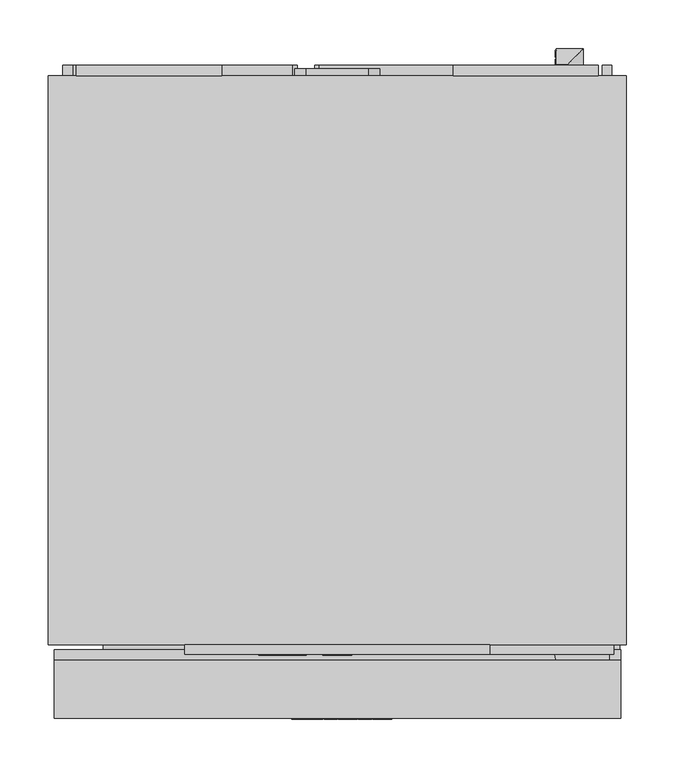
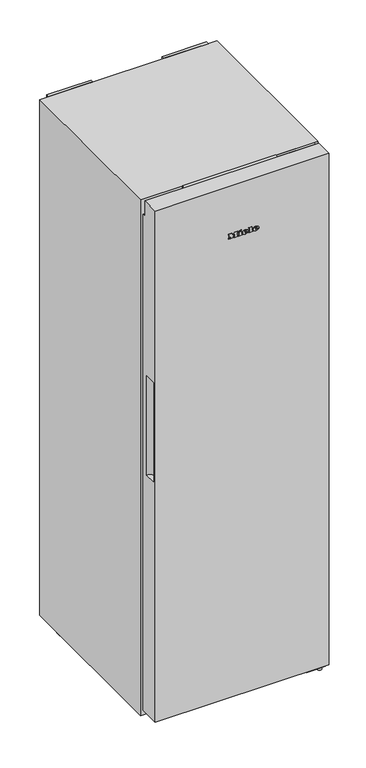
"""IFC4 building model written with IfcOpenShell, lengths in millimetres: proxy geometry, 12431030_EU1_KS4383DD_WS : 36438344_EU1_12431030_KS4383DD_WS."""

from ifc_helpers import new_model, si_unit, point, frame, frame_2d, origin, origin_with_axes, place, context, project, spatial, polyline, circle_curve, ellipse_curve, trimmed, segment, composite_curve, outline, extrude, faceted_brep, source, transform, mapped, element, save
from ifc_brep_helpers import plane_surface, cylinder_surface, revolved_surface, extruded_surface, advanced_brep


def specialty_equipment_c9f19f57(model_context):
    return source(origin(), model_context, "Body", "SolidModel", [
        extrude(outline(polyline([(15.0, -609.5), (-15.0, -609.5), (-15.0, -608.5), (15.0, -608.5), (15.0, -609.5)])), frame((0.0, 0.0, 1810.5), z_axis=(0.0, 0.0, 1.0), x_axis=(1.0, 0.0, 0.0)), (0.0, 0.0, 1.0), 31.0),
        extrude(outline(polyline([(105.0, -608.5), (-105.0, -608.5), (-105.0, -606.5), (105.0, -606.5), (105.0, -608.5)])), frame((0.0, 0.0, 1806.5), z_axis=(0.0, 0.0, 1.0), x_axis=(1.0, 0.0, 0.0)), (0.0, 0.0, 1.0), 39.0),
        faceted_brep([(157.5, -598.5, 1802.0), (157.5, -608.5, 1802.0), (-157.5, -608.5, 1802.0), (-157.5, -598.5, 1802.0), (157.5, -598.5, 1850.0), (-157.5, -598.5, 1850.0), (-157.5, -608.5, 1850.0), (157.5, -608.5, 1850.0), (-105.0, -608.5, 1845.5), (105.0, -608.5, 1845.5), (105.0, -608.5, 1806.5), (-105.0, -608.5, 1806.5), (105.0, -606.5, 1845.5), (-105.0, -606.5, 1845.5), (-105.0, -606.5, 1806.5), (105.0, -606.5, 1806.5)], [[[0, 1, 2, 3]], [[4, 5, 6, 7]], [[0, 3, 5, 4]], [[3, 2, 6, 5]], [[2, 1, 7, 6], [8, 9, 10, 11]], [[1, 0, 4, 7]], [[12, 13, 14, 15]], [[13, 12, 9, 8]], [[14, 13, 8, 11]], [[15, 14, 11, 10]], [[12, 15, 10, 9]]]),
        advanced_brep(
        [(44.846, -675.5, 1672.029), (44.846, -675.5, 1673.746), (56.219, -675.5, 1673.746), (36.431, -675.5, 1673.746), (41.106, -675.5, 1668.0), (55.93, -675.5, 1672.029), (50.796, -675.5, 1672.029), (46.75, -675.5, 1670.125), (44.846, -675.5, 1675.922), (44.846, -675.5, 1677.775), (47.753, -675.5, 1677.775), (47.753, -675.5, 1675.922), (44.846, -674.5, 1672.029), (46.75, -674.5, 1670.125), (50.796, -674.5, 1672.029), (55.93, -674.5, 1672.029), (41.106, -674.5, 1668.0), (36.431, -674.5, 1673.746), (56.219, -674.5, 1673.746), (44.846, -674.5, 1673.746), (44.846, -674.5, 1675.922), (47.753, -674.5, 1675.922), (47.753, -674.5, 1677.775), (44.846, -674.5, 1677.775)],
        [
            (0, 1),
            (1, 2),
            (2, 3, ellipse_curve(frame((46.325, -675.5, 1673.746), z_axis=(0.0, -1.0, 0.0), x_axis=(-1.0, 0.0, 0.0)), 9.894, 8.177)),
            (3, 4, circle_curve(frame((43.0100927, -675.5, 1674.324), z_axis=(0.0, -1.0, 0.0), x_axis=(0.0, 0.0, -1.0)), 6.6044337)),
            (4, 5, circle_curve(frame((46.1269364, -675.5, 1678.812), z_axis=(0.0, -1.0, 0.0), x_axis=(0.0, 0.0, -1.0)), 11.9209541)),
            (5, 6),
            (6, 7, circle_curve(frame((47.581, -675.5, 1673.61), z_axis=(0.0, 1.0, 0.0), x_axis=(0.0, 0.0, -1.0)), 3.5827065)),
            (7, 0, circle_curve(frame((46.75, -675.5, 1672.029), z_axis=(0.0, 1.0, 0.0), x_axis=(0.0, 0.0, -1.0)), 1.904)),
            (8, 9),
            (9, 10, circle_curve(frame((46.2995, -675.5, 1677.775), z_axis=(0.0, 1.0, 0.0), x_axis=(0.0, 0.0, -1.0)), 1.4535)),
            (10, 11),
            (11, 8),
            (12, 13, circle_curve(frame((46.75, -674.5, 1672.029), z_axis=(0.0, -1.0, 0.0), x_axis=(0.0, 0.0, -1.0)), 1.904)),
            (13, 14, circle_curve(frame((47.581, -674.5, 1673.61), z_axis=(0.0, -1.0, 0.0), x_axis=(0.0, 0.0, -1.0)), 3.5827065)),
            (14, 15),
            (15, 16, circle_curve(frame((46.1269364, -674.5, 1678.812), z_axis=(0.0, 1.0, 0.0), x_axis=(0.0, 0.0, -1.0)), 11.9209541)),
            (16, 17, circle_curve(frame((43.0100927, -674.5, 1674.324), z_axis=(0.0, 1.0, 0.0), x_axis=(0.0, 0.0, -1.0)), 6.6044337)),
            (17, 18, ellipse_curve(frame((46.325, -674.5, 1673.746), z_axis=(0.0, 1.0, 0.0), x_axis=(-1.0, 0.0, 0.0)), 9.894, 8.177)),
            (18, 19),
            (19, 12),
            (20, 21),
            (21, 22),
            (22, 23, circle_curve(frame((46.2995, -674.5, 1677.775), z_axis=(0.0, -1.0, 0.0), x_axis=(0.0, 0.0, -1.0)), 1.4535)),
            (23, 20),
            (0, 12),
            (19, 1),
            (18, 2),
            (5, 15),
            (14, 6),
            (17, 3),
            (13, 7),
            (16, 4),
            (8, 20),
            (23, 9),
            (22, 10),
            (21, 11),
        ],
        [
            plane_surface(frame((44.846, -675.5, 1673.746), z_axis=(0.0, -1.0, 0.0), x_axis=(0.0, 0.0, 1.0))),
            plane_surface(frame((44.846, -674.5, 1673.746), z_axis=(0.0, 1.0, 0.0), x_axis=(0.0, 0.0, -1.0))),
            plane_surface(frame((44.846, -675.5, 1672.029), z_axis=(1.0, 0.0, 0.0), x_axis=(0.0, 1.0, 0.0))),
            plane_surface(frame((44.846, -675.5, 1673.746), z_axis=(0.0, 0.0, -1.0), x_axis=(0.0, 1.0, 0.0))),
            plane_surface(frame((55.93, -675.5, 1672.029), z_axis=(0.0, 0.0, 1.0), x_axis=(0.0, 1.0, 0.0))),
            extruded_surface(trimmed(ellipse_curve(frame((46.325, -673.5, 1673.746), z_axis=(0.0, -1.0, 0.0), x_axis=(-1.0, 0.0, 0.0)), 9.894, 8.177), [point((56.219, -673.5, 1673.746))], [point((36.431, -673.5, 1673.746))], True, "CARTESIAN"), (0.0, -1.0, 0.0), 1.0),
            revolved_surface(polyline([(47.581, -674.5, 1670.0272934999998), (47.581, -675.5, 1670.0272934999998)]), (47.581, -674.5, 1673.61), (0.0, 1.0, 0.0)),
            revolved_surface(polyline([(46.75, -674.5, 1670.125), (46.75, -675.5, 1670.125)]), (46.75, -674.5, 1672.029), (0.0, 1.0, 0.0)),
            cylinder_surface(frame((43.0100927, -674.5, 1674.324), z_axis=(0.0, -1.0, 0.0), x_axis=(0.0, 0.0, -1.0)), 6.6044337),
            cylinder_surface(frame((46.1269364, -674.5, 1678.812), z_axis=(0.0, -1.0, 0.0), x_axis=(0.0, 0.0, -1.0)), 11.9209541),
            plane_surface(frame((44.846, -675.5, 1675.922), z_axis=(1.0, 0.0, 0.0), x_axis=(0.0, 1.0, 0.0))),
            revolved_surface(polyline([(46.2995, -674.5, 1676.3215), (46.2995, -675.5, 1676.3215)]), (46.2995, -674.5, 1677.775), (0.0, 1.0, 0.0)),
            plane_surface(frame((47.753, -675.5, 1677.775), z_axis=(-1.0, 0.0, 0.0), x_axis=(0.0, 1.0, 0.0))),
            plane_surface(frame((47.753, -675.5, 1675.922), z_axis=(0.0, 0.0, 1.0), x_axis=(0.0, 1.0, 0.0))),
        ],
        [
            (0, [[1, 2, 3, 4, 5, 6, 7, 8], [9, 10, 11, 12]]),
            (1, [[13, 14, 15, 16, 17, 18, 19, 20], [21, 22, 23, 24]]),
            (2, [[-1, 25, -20, 26]]),
            (3, [[-2, -26, -19, 27]]),
            (4, [[-6, 28, -15, 29]]),
            (5, [[-3, -27, -18, 30]]),
            (6, [[-7, -29, -14, 31]]),
            (7, [[-8, -31, -13, -25]]),
            (8, [[-4, -30, -17, 32]]),
            (9, [[-5, -32, -16, -28]]),
            (10, [[-9, 33, -24, 34]]),
            (11, [[-10, -34, -23, 35]]),
            (12, [[-11, -35, -22, 36]]),
            (13, [[-12, -36, -21, -33]]),
        ],
    ),
        advanced_brep(
        [(9.367, -675.5, 1672.029), (9.367, -675.5, 1673.746), (20.74, -675.5, 1673.746), (0.952, -675.5, 1673.746), (5.627, -675.5, 1668.0), (20.451, -675.5, 1672.029), (15.317, -675.5, 1672.029), (11.271, -675.5, 1670.125), (9.367, -675.5, 1675.922), (9.367, -675.5, 1677.775), (12.274, -675.5, 1677.775), (12.274, -675.5, 1675.922), (9.367, -674.5, 1672.029), (11.271, -674.5, 1670.125), (15.317, -674.5, 1672.029), (20.451, -674.5, 1672.029), (5.627, -674.5, 1668.0), (0.952, -674.5, 1673.746), (20.74, -674.5, 1673.746), (9.367, -674.5, 1673.746), (9.367, -674.5, 1675.922), (12.274, -674.5, 1675.922), (12.274, -674.5, 1677.775), (9.367, -674.5, 1677.775)],
        [
            (0, 1),
            (1, 2),
            (2, 3, ellipse_curve(frame((10.846, -675.5, 1673.746), z_axis=(0.0, -1.0, 0.0), x_axis=(-1.0, 0.0, 0.0)), 9.894, 8.177)),
            (3, 4, circle_curve(frame((7.5310927, -675.5, 1674.324), z_axis=(0.0, -1.0, 0.0), x_axis=(0.0, 0.0, -1.0)), 6.6044337)),
            (4, 5, circle_curve(frame((10.6479364, -675.5, 1678.812), z_axis=(0.0, -1.0, 0.0), x_axis=(0.0, 0.0, -1.0)), 11.9209541)),
            (5, 6),
            (6, 7, circle_curve(frame((12.102, -675.5, 1673.61), z_axis=(0.0, 1.0, 0.0), x_axis=(0.0, 0.0, -1.0)), 3.5827065)),
            (7, 0, circle_curve(frame((11.271, -675.5, 1672.029), z_axis=(0.0, 1.0, 0.0), x_axis=(0.0, 0.0, -1.0)), 1.904)),
            (8, 9),
            (9, 10, circle_curve(frame((10.8205, -675.5, 1677.775), z_axis=(0.0, 1.0, 0.0), x_axis=(0.0, 0.0, -1.0)), 1.4535)),
            (10, 11),
            (11, 8),
            (12, 13, circle_curve(frame((11.271, -674.5, 1672.029), z_axis=(0.0, -1.0, 0.0), x_axis=(0.0, 0.0, -1.0)), 1.904)),
            (13, 14, circle_curve(frame((12.102, -674.5, 1673.61), z_axis=(0.0, -1.0, 0.0), x_axis=(0.0, 0.0, -1.0)), 3.5827065)),
            (14, 15),
            (15, 16, circle_curve(frame((10.6479364, -674.5, 1678.812), z_axis=(0.0, 1.0, 0.0), x_axis=(0.0, 0.0, -1.0)), 11.9209541)),
            (16, 17, circle_curve(frame((7.5310927, -674.5, 1674.324), z_axis=(0.0, 1.0, 0.0), x_axis=(0.0, 0.0, -1.0)), 6.6044337)),
            (17, 18, ellipse_curve(frame((10.846, -674.5, 1673.746), z_axis=(0.0, 1.0, 0.0), x_axis=(-1.0, 0.0, 0.0)), 9.894, 8.177)),
            (18, 19),
            (19, 12),
            (20, 21),
            (21, 22),
            (22, 23, circle_curve(frame((10.8205, -674.5, 1677.775), z_axis=(0.0, -1.0, 0.0), x_axis=(0.0, 0.0, -1.0)), 1.4535)),
            (23, 20),
            (0, 12),
            (19, 1),
            (18, 2),
            (5, 15),
            (14, 6),
            (17, 3),
            (13, 7),
            (16, 4),
            (8, 20),
            (23, 9),
            (22, 10),
            (21, 11),
        ],
        [
            plane_surface(frame((9.367, -675.5, 1673.746), z_axis=(0.0, -1.0, 0.0), x_axis=(0.0, 0.0, 1.0))),
            plane_surface(frame((9.367, -674.5, 1673.746), z_axis=(0.0, 1.0, 0.0), x_axis=(0.0, 0.0, -1.0))),
            plane_surface(frame((9.367, -675.5, 1672.029), z_axis=(1.0, 0.0, 0.0), x_axis=(0.0, 1.0, 0.0))),
            plane_surface(frame((9.367, -675.5, 1673.746), z_axis=(0.0, 0.0, -1.0), x_axis=(0.0, 1.0, 0.0))),
            plane_surface(frame((20.451, -675.5, 1672.029), z_axis=(0.0, 0.0, 1.0), x_axis=(0.0, 1.0, 0.0))),
            extruded_surface(trimmed(ellipse_curve(frame((10.846, -673.5, 1673.746), z_axis=(0.0, -1.0, 0.0), x_axis=(-1.0, 0.0, 0.0)), 9.894, 8.177), [point((20.74, -673.5, 1673.746))], [point((0.952, -673.5, 1673.746))], True, "CARTESIAN"), (0.0, -1.0, 0.0), 1.0),
            revolved_surface(polyline([(12.102, -674.5, 1670.0272934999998), (12.102, -675.5, 1670.0272934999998)]), (12.102, -674.5, 1673.61), (0.0, 1.0, 0.0)),
            revolved_surface(polyline([(11.271, -674.5, 1670.125), (11.271, -675.5, 1670.125)]), (11.271, -674.5, 1672.029), (0.0, 1.0, 0.0)),
            cylinder_surface(frame((7.5310927, -674.5, 1674.324), z_axis=(0.0, -1.0, 0.0), x_axis=(0.0, 0.0, -1.0)), 6.6044337),
            cylinder_surface(frame((10.6479364, -674.5, 1678.812), z_axis=(0.0, -1.0, 0.0), x_axis=(0.0, 0.0, -1.0)), 11.9209541),
            plane_surface(frame((9.367, -675.5, 1675.922), z_axis=(1.0, 0.0, 0.0), x_axis=(0.0, 1.0, 0.0))),
            revolved_surface(polyline([(10.8205, -674.5, 1676.3215), (10.8205, -675.5, 1676.3215)]), (10.8205, -674.5, 1677.775), (0.0, 1.0, 0.0)),
            plane_surface(frame((12.274, -675.5, 1677.775), z_axis=(-1.0, 0.0, 0.0), x_axis=(0.0, 1.0, 0.0))),
            plane_surface(frame((12.274, -675.5, 1675.922), z_axis=(0.0, 0.0, 1.0), x_axis=(0.0, 1.0, 0.0))),
        ],
        [
            (0, [[1, 2, 3, 4, 5, 6, 7, 8], [9, 10, 11, 12]]),
            (1, [[13, 14, 15, 16, 17, 18, 19, 20], [21, 22, 23, 24]]),
            (2, [[-1, 25, -20, 26]]),
            (3, [[-2, -26, -19, 27]]),
            (4, [[-6, 28, -15, 29]]),
            (5, [[-3, -27, -18, 30]]),
            (6, [[-7, -29, -14, 31]]),
            (7, [[-8, -31, -13, -25]]),
            (8, [[-4, -30, -17, 32]]),
            (9, [[-5, -32, -16, -28]]),
            (10, [[-9, 33, -24, 34]]),
            (11, [[-10, -34, -23, 35]]),
            (12, [[-11, -35, -22, 36]]),
            (13, [[-12, -36, -21, -33]]),
        ],
    ),
        extrude(outline(polyline([(1683.997, -9.214), (1681.243, -7.922), (1683.929, -2.159), (1686.683, -3.434), (1683.997, -9.214)])), frame((0.0, -675.5, 0.0), z_axis=(0.0, 1.0, 0.0), x_axis=(0.0, 0.0, 1.0)), (0.0, 0.0, 1.0), 1.0),
        extrude(outline(polyline([(1680.869, -13.413), (1677.826, -13.413), (1677.826, -11.39), (1670.856, -11.39), (1670.856, -13.413), (1668.0, -13.413), (1668.0, 0.0), (1670.856, 0.0), (1670.856, -1.972), (1680.869, -1.972), (1680.869, -13.413)])), frame((0.0, -675.5, 0.0), z_axis=(0.0, 1.0, 0.0), x_axis=(0.0, 0.0, 1.0)), (0.0, 0.0, 1.0), 1.0),
        extrude(outline(polyline([(1682.229, 21.692), (1682.229, 23.732), (1670.856, 23.732), (1670.856, 21.692), (1668.0, 21.692), (1668.0, 35.479), (1670.856, 35.479), (1670.856, 33.388), (1685.0, 33.388), (1685.0, 21.692), (1682.229, 21.692)])), frame((0.0, -675.5, 0.0), z_axis=(0.0, 1.0, 0.0), x_axis=(0.0, 0.0, 1.0)), (0.0, 0.0, 1.0), 1.0),
        extrude(outline(polyline([(1682.229, -47.294), (1682.229, -45.237), (1670.856, -45.237), (1670.856, -47.294), (1668.0, -47.294), (1668.0, -39.814), (1670.856, -39.814), (1670.856, -41.854), (1678.0301247, -41.854), (1668.0, -34.255), (1678.4402223, -26.622), (1670.856, -26.622), (1670.856, -28.713), (1668.0, -28.713), (1668.0, -15.147), (1670.856, -15.147), (1670.856, -17.306), (1682.229, -17.306), (1682.229, -15.147), (1685.0, -15.147), (1685.0, -25.5), (1678.625, -30.464), (1685.0, -35.445), (1685.0, -47.294), (1682.229, -47.294)])), frame((0.0, -675.5, 0.0), z_axis=(0.0, 1.0, 0.0), x_axis=(0.0, 0.0, 1.0)), (0.0, 0.0, 1.0), 1.0),
        advanced_brep(
        [(-37.64, -609.5, 1828.896), (-37.64, -609.5, 1829.704), (-32.288, -609.5, 1829.704), (-41.6, -609.5, 1829.704), (-39.4, -609.5, 1827.0), (-32.424, -609.5, 1828.896), (-34.84, -609.5, 1828.896), (-36.744, -609.5, 1828.0), (-37.64, -609.5, 1830.728), (-37.64, -609.5, 1831.6), (-36.272, -609.5, 1831.6), (-36.272, -609.5, 1830.728), (-37.64, -608.5, 1828.896), (-36.744, -608.5, 1828.0), (-34.84, -608.5, 1828.896), (-32.424, -608.5, 1828.896), (-39.4, -608.5, 1827.0), (-41.6, -608.5, 1829.704), (-32.288, -608.5, 1829.704), (-37.64, -608.5, 1829.704), (-37.64, -608.5, 1830.728), (-36.272, -608.5, 1830.728), (-36.272, -608.5, 1831.6), (-37.64, -608.5, 1831.6)],
        [
            (0, 1),
            (1, 2),
            (2, 3, ellipse_curve(frame((-36.944, -609.5, 1829.704), z_axis=(0.0, -1.0, 0.0), x_axis=(-1.0, 0.0, 0.0)), 4.656, 3.848)),
            (3, 4, circle_curve(frame((-38.5039564, -609.5, 1829.976), z_axis=(0.0, -1.0, 0.0), x_axis=(0.0, 0.0, -1.0)), 3.1079688)),
            (4, 5, circle_curve(frame((-37.0372064, -609.5, 1832.088), z_axis=(0.0, -1.0, 0.0), x_axis=(0.0, 0.0, -1.0)), 5.6098607)),
            (5, 6),
            (6, 7, circle_curve(frame((-36.3529412, -609.5, 1829.64), z_axis=(0.0, 1.0, 0.0), x_axis=(0.0, 0.0, -1.0)), 1.6859795)),
            (7, 0, circle_curve(frame((-36.744, -609.5, 1828.896), z_axis=(0.0, 1.0, 0.0), x_axis=(0.0, 0.0, -1.0)), 0.896)),
            (8, 9),
            (9, 10, circle_curve(frame((-36.956, -609.5, 1831.6), z_axis=(0.0, 1.0, 0.0), x_axis=(0.0, 0.0, -1.0)), 0.684)),
            (10, 11),
            (11, 8),
            (12, 13, circle_curve(frame((-36.744, -608.5, 1828.896), z_axis=(0.0, -1.0, 0.0), x_axis=(0.0, 0.0, -1.0)), 0.896)),
            (13, 14, circle_curve(frame((-36.3529412, -608.5, 1829.64), z_axis=(0.0, -1.0, 0.0), x_axis=(0.0, 0.0, -1.0)), 1.6859795)),
            (14, 15),
            (15, 16, circle_curve(frame((-37.0372064, -608.5, 1832.088), z_axis=(0.0, 1.0, 0.0), x_axis=(0.0, 0.0, -1.0)), 5.6098607)),
            (16, 17, circle_curve(frame((-38.5039564, -608.5, 1829.976), z_axis=(0.0, 1.0, 0.0), x_axis=(0.0, 0.0, -1.0)), 3.1079688)),
            (17, 18, ellipse_curve(frame((-36.944, -608.5, 1829.704), z_axis=(0.0, 1.0, 0.0), x_axis=(-1.0, 0.0, 0.0)), 4.656, 3.848)),
            (18, 19),
            (19, 12),
            (20, 21),
            (21, 22),
            (22, 23, circle_curve(frame((-36.956, -608.5, 1831.6), z_axis=(0.0, -1.0, 0.0), x_axis=(0.0, 0.0, -1.0)), 0.684)),
            (23, 20),
            (0, 12),
            (19, 1),
            (18, 2),
            (5, 15),
            (14, 6),
            (17, 3),
            (13, 7),
            (16, 4),
            (8, 20),
            (23, 9),
            (22, 10),
            (21, 11),
        ],
        [
            plane_surface(frame((-37.64, -609.5, 1829.704), z_axis=(0.0, -1.0, 0.0), x_axis=(0.0, 0.0, 1.0))),
            plane_surface(frame((-37.64, -608.5, 1829.704), z_axis=(0.0, 1.0, 0.0), x_axis=(0.0, 0.0, -1.0))),
            plane_surface(frame((-37.64, -609.5, 1828.896), z_axis=(1.0, 0.0, 0.0), x_axis=(0.0, 1.0, 0.0))),
            plane_surface(frame((-37.64, -609.5, 1829.704), z_axis=(0.0, 0.0, -1.0), x_axis=(0.0, 1.0, 0.0))),
            plane_surface(frame((-32.424, -609.5, 1828.896), z_axis=(0.0, 0.0, 1.0), x_axis=(0.0, 1.0, 0.0))),
            extruded_surface(trimmed(ellipse_curve(frame((-36.944, -607.5, 1829.704), z_axis=(0.0, -1.0, 0.0), x_axis=(-1.0, 0.0, 0.0)), 4.656, 3.848), [point((-32.288, -607.5, 1829.704))], [point((-41.6, -607.5, 1829.704))], True, "CARTESIAN"), (0.0, -1.0, 0.0), 1.0),
            revolved_surface(polyline([(-36.3529412, -608.5, 1827.9540205), (-36.3529412, -609.5, 1827.9540205)]), (-36.3529412, -608.5, 1829.64), (0.0, 1.0, 0.0)),
            revolved_surface(polyline([(-36.744, -608.5, 1828.0), (-36.744, -609.5, 1828.0)]), (-36.744, -608.5, 1828.896), (0.0, 1.0, 0.0)),
            cylinder_surface(frame((-38.5039564, -608.5, 1829.976), z_axis=(0.0, -1.0, 0.0), x_axis=(0.0, 0.0, -1.0)), 3.1079688),
            cylinder_surface(frame((-37.0372064, -608.5, 1832.088), z_axis=(0.0, -1.0, 0.0), x_axis=(0.0, 0.0, -1.0)), 5.6098607),
            plane_surface(frame((-37.64, -609.5, 1830.728), z_axis=(1.0, 0.0, 0.0), x_axis=(0.0, 1.0, 0.0))),
            revolved_surface(polyline([(-36.956, -608.5, 1830.916), (-36.956, -609.5, 1830.916)]), (-36.956, -608.5, 1831.6), (0.0, 1.0, 0.0)),
            plane_surface(frame((-36.272, -609.5, 1831.6), z_axis=(-1.0, 0.0, 0.0), x_axis=(0.0, 1.0, 0.0))),
            plane_surface(frame((-36.272, -609.5, 1830.728), z_axis=(0.0, 0.0, 1.0), x_axis=(0.0, 1.0, 0.0))),
        ],
        [
            (0, [[1, 2, 3, 4, 5, 6, 7, 8], [9, 10, 11, 12]]),
            (1, [[13, 14, 15, 16, 17, 18, 19, 20], [21, 22, 23, 24]]),
            (2, [[-1, 25, -20, 26]]),
            (3, [[-2, -26, -19, 27]]),
            (4, [[-6, 28, -15, 29]]),
            (5, [[-3, -27, -18, 30]]),
            (6, [[-7, -29, -14, 31]]),
            (7, [[-8, -31, -13, -25]]),
            (8, [[-4, -30, -17, 32]]),
            (9, [[-5, -32, -16, -28]]),
            (10, [[-9, 33, -24, 34]]),
            (11, [[-10, -34, -23, 35]]),
            (12, [[-11, -35, -22, 36]]),
            (13, [[-12, -36, -21, -33]]),
        ],
    ),
        advanced_brep(
        [(-54.336, -609.5, 1828.896), (-54.336, -609.5, 1829.704), (-48.984, -609.5, 1829.704), (-58.296, -609.5, 1829.704), (-56.096, -609.5, 1827.0), (-49.12, -609.5, 1828.896), (-51.536, -609.5, 1828.896), (-53.44, -609.5, 1828.0), (-54.336, -609.5, 1830.728), (-54.336, -609.5, 1831.6), (-52.968, -609.5, 1831.6), (-52.968, -609.5, 1830.728), (-54.336, -608.5, 1828.896), (-53.44, -608.5, 1828.0), (-51.536, -608.5, 1828.896), (-49.12, -608.5, 1828.896), (-56.096, -608.5, 1827.0), (-58.296, -608.5, 1829.704), (-48.984, -608.5, 1829.704), (-54.336, -608.5, 1829.704), (-54.336, -608.5, 1830.728), (-52.968, -608.5, 1830.728), (-52.968, -608.5, 1831.6), (-54.336, -608.5, 1831.6)],
        [
            (0, 1),
            (1, 2),
            (2, 3, ellipse_curve(frame((-53.64, -609.5, 1829.704), z_axis=(0.0, -1.0, 0.0), x_axis=(-1.0, 0.0, 0.0)), 4.656, 3.848)),
            (3, 4, circle_curve(frame((-55.1999564, -609.5, 1829.976), z_axis=(0.0, -1.0, 0.0), x_axis=(0.0, 0.0, -1.0)), 3.1079688)),
            (4, 5, circle_curve(frame((-53.7332064, -609.5, 1832.088), z_axis=(0.0, -1.0, 0.0), x_axis=(0.0, 0.0, -1.0)), 5.6098607)),
            (5, 6),
            (6, 7, circle_curve(frame((-53.0489412, -609.5, 1829.64), z_axis=(0.0, 1.0, 0.0), x_axis=(0.0, 0.0, -1.0)), 1.6859795)),
            (7, 0, circle_curve(frame((-53.44, -609.5, 1828.896), z_axis=(0.0, 1.0, 0.0), x_axis=(0.0, 0.0, -1.0)), 0.896)),
            (8, 9),
            (9, 10, circle_curve(frame((-53.652, -609.5, 1831.6), z_axis=(0.0, 1.0, 0.0), x_axis=(0.0, 0.0, -1.0)), 0.684)),
            (10, 11),
            (11, 8),
            (12, 13, circle_curve(frame((-53.44, -608.5, 1828.896), z_axis=(0.0, -1.0, 0.0), x_axis=(0.0, 0.0, -1.0)), 0.896)),
            (13, 14, circle_curve(frame((-53.0489412, -608.5, 1829.64), z_axis=(0.0, -1.0, 0.0), x_axis=(0.0, 0.0, -1.0)), 1.6859795)),
            (14, 15),
            (15, 16, circle_curve(frame((-53.7332064, -608.5, 1832.088), z_axis=(0.0, 1.0, 0.0), x_axis=(0.0, 0.0, -1.0)), 5.6098607)),
            (16, 17, circle_curve(frame((-55.1999564, -608.5, 1829.976), z_axis=(0.0, 1.0, 0.0), x_axis=(0.0, 0.0, -1.0)), 3.1079688)),
            (17, 18, ellipse_curve(frame((-53.64, -608.5, 1829.704), z_axis=(0.0, 1.0, 0.0), x_axis=(-1.0, 0.0, 0.0)), 4.656, 3.848)),
            (18, 19),
            (19, 12),
            (20, 21),
            (21, 22),
            (22, 23, circle_curve(frame((-53.652, -608.5, 1831.6), z_axis=(0.0, -1.0, 0.0), x_axis=(0.0, 0.0, -1.0)), 0.684)),
            (23, 20),
            (0, 12),
            (19, 1),
            (18, 2),
            (5, 15),
            (14, 6),
            (17, 3),
            (13, 7),
            (16, 4),
            (8, 20),
            (23, 9),
            (22, 10),
            (21, 11),
        ],
        [
            plane_surface(frame((-54.336, -609.5, 1829.704), z_axis=(0.0, -1.0, 0.0), x_axis=(0.0, 0.0, 1.0))),
            plane_surface(frame((-54.336, -608.5, 1829.704), z_axis=(0.0, 1.0, 0.0), x_axis=(0.0, 0.0, -1.0))),
            plane_surface(frame((-54.336, -609.5, 1828.896), z_axis=(1.0, 0.0, 0.0), x_axis=(0.0, 1.0, 0.0))),
            plane_surface(frame((-54.336, -609.5, 1829.704), z_axis=(0.0, 0.0, -1.0), x_axis=(0.0, 1.0, 0.0))),
            plane_surface(frame((-49.12, -609.5, 1828.896), z_axis=(0.0, 0.0, 1.0), x_axis=(0.0, 1.0, 0.0))),
            extruded_surface(trimmed(ellipse_curve(frame((-53.64, -607.5, 1829.704), z_axis=(0.0, -1.0, 0.0), x_axis=(-1.0, 0.0, 0.0)), 4.656, 3.848), [point((-48.984, -607.5, 1829.704))], [point((-58.296, -607.5, 1829.704))], True, "CARTESIAN"), (0.0, -1.0, 0.0), 1.0),
            revolved_surface(polyline([(-53.0489412, -608.5, 1827.9540205), (-53.0489412, -609.5, 1827.9540205)]), (-53.0489412, -608.5, 1829.64), (0.0, 1.0, 0.0)),
            revolved_surface(polyline([(-53.44, -608.5, 1828.0), (-53.44, -609.5, 1828.0)]), (-53.44, -608.5, 1828.896), (0.0, 1.0, 0.0)),
            cylinder_surface(frame((-55.1999564, -608.5, 1829.976), z_axis=(0.0, -1.0, 0.0), x_axis=(0.0, 0.0, -1.0)), 3.1079688),
            cylinder_surface(frame((-53.7332064, -608.5, 1832.088), z_axis=(0.0, -1.0, 0.0), x_axis=(0.0, 0.0, -1.0)), 5.6098607),
            plane_surface(frame((-54.336, -609.5, 1830.728), z_axis=(1.0, 0.0, 0.0), x_axis=(0.0, 1.0, 0.0))),
            revolved_surface(polyline([(-53.652, -608.5, 1830.916), (-53.652, -609.5, 1830.916)]), (-53.652, -608.5, 1831.6), (0.0, 1.0, 0.0)),
            plane_surface(frame((-52.968, -609.5, 1831.6), z_axis=(-1.0, 0.0, 0.0), x_axis=(0.0, 1.0, 0.0))),
            plane_surface(frame((-52.968, -609.5, 1830.728), z_axis=(0.0, 0.0, 1.0), x_axis=(0.0, 1.0, 0.0))),
        ],
        [
            (0, [[1, 2, 3, 4, 5, 6, 7, 8], [9, 10, 11, 12]]),
            (1, [[13, 14, 15, 16, 17, 18, 19, 20], [21, 22, 23, 24]]),
            (2, [[-1, 25, -20, 26]]),
            (3, [[-2, -26, -19, 27]]),
            (4, [[-6, 28, -15, 29]]),
            (5, [[-3, -27, -18, 30]]),
            (6, [[-7, -29, -14, 31]]),
            (7, [[-8, -31, -13, -25]]),
            (8, [[-4, -30, -17, 32]]),
            (9, [[-5, -32, -16, -28]]),
            (10, [[-9, 33, -24, 34]]),
            (11, [[-10, -34, -23, 35]]),
            (12, [[-11, -35, -22, 36]]),
            (13, [[-12, -36, -21, -33]]),
        ],
    ),
        extrude(outline(polyline([(1834.528, -63.08), (1833.232, -62.472), (1834.496, -59.76), (1835.792, -60.36), (1834.528, -63.08)])), frame((0.0, -609.5, 0.0), z_axis=(0.0, 1.0, 0.0), x_axis=(0.0, 0.0, 1.0)), (0.0, 0.0, 1.0), 1.0),
        extrude(outline(polyline([(1833.056, -65.056), (1831.624, -65.056), (1831.624, -64.104), (1828.344, -64.104), (1828.344, -65.056), (1827.0, -65.056), (1827.0, -58.744), (1828.344, -58.744), (1828.344, -59.672), (1833.056, -59.672), (1833.056, -65.056)])), frame((0.0, -609.5, 0.0), z_axis=(0.0, 1.0, 0.0), x_axis=(0.0, 0.0, 1.0)), (0.0, 0.0, 1.0), 1.0),
        extrude(outline(polyline([(1833.696, -48.536), (1833.696, -47.576), (1828.344, -47.576), (1828.344, -48.536), (1827.0, -48.536), (1827.0, -42.048), (1828.344, -42.048), (1828.344, -43.032), (1835.0, -43.032), (1835.0, -48.536), (1833.696, -48.536)])), frame((0.0, -609.5, 0.0), z_axis=(0.0, 1.0, 0.0), x_axis=(0.0, 0.0, 1.0)), (0.0, 0.0, 1.0), 1.0),
        extrude(outline(polyline([(1833.696, -81.0), (1833.696, -80.032), (1828.344, -80.032), (1828.344, -81.0), (1827.0, -81.0), (1827.0, -77.48), (1828.344, -77.48), (1828.344, -78.44), (1831.7471247, -78.44), (1827.0, -74.864), (1831.8152223, -71.272), (1828.344, -71.272), (1828.344, -72.256), (1827.0, -72.256), (1827.0, -65.872), (1828.344, -65.872), (1828.344, -66.888), (1833.696, -66.888), (1833.696, -65.872), (1835.0, -65.872), (1835.0, -70.744), (1832.0, -73.08), (1835.0, -75.424), (1835.0, -81.0), (1833.696, -81.0)])), frame((0.0, -609.5, 0.0), z_axis=(0.0, 1.0, 0.0), x_axis=(0.0, 0.0, 1.0)), (0.0, 0.0, 1.0), 1.0),
        extrude(outline(polyline([(-63.7102801, 4.8264332), (-39.4378823, 4.8264332), (-46.2922883, 0.1735668), (-55.0031641, 0.1735668), (-63.7102801, 4.8264332)])), frame((-263.6000061, 0.0, 0.0), z_axis=(1.0, 0.0, 0.0), x_axis=(0.0, 1.0, 0.0)), (0.0, 0.0, 1.0), 15.1000061),
        extrude(outline(polyline([(-63.7102801, 4.8264332), (-39.4378823, 4.8264332), (-46.2922883, 0.1735668), (-55.0031641, 0.1735668), (-63.7102801, 4.8264332)])), frame((248.5, 0.0, 0.0), z_axis=(1.0, 0.0, 0.0), x_axis=(0.0, 1.0, 0.0)), (0.0, 0.0, 1.0), 15.1000061),
        extrude(outline(polyline([(15.8847229, 142.0), (8.5074627, 142.0), (8.5074627, 143.2557039), (14.6290191, 143.2557039), (14.6290191, 146.5519266), (8.9783516, 146.5519266), (8.9783516, 147.8076304), (14.6290191, 147.8076304), (14.6290191, 150.7899271), (8.6644256, 150.7899271), (8.6644256, 152.045631), (15.8847229, 152.045631), (15.8847229, 142.0)])), frame((225.2100653, 0.0, 0.0), z_axis=(1.0, 0.0, 0.0), x_axis=(0.0, 1.0, 0.0)), (0.0, 0.0, 1.0), 1.0),
        extrude(outline(polyline([(6.6239068, 142.0), (0.3453875, 142.0), (0.3453875, 143.2557039), (5.368203, 143.2557039), (5.368203, 152.045631), (6.6239068, 152.045631), (6.6239068, 142.0)])), frame((225.2100653, 0.0, 0.0), z_axis=(1.0, 0.0, 0.0), x_axis=(0.0, 1.0, 0.0)), (0.0, 0.0, 1.0), 1.0),
        advanced_brep(
        [(254.2100653, -10.5, 147.0), (238.2100653, -10.5, 147.0), (254.2100653, 17.5, 147.0), (238.2100653, 1.5, 147.0), (226.2100653, 17.5, 147.0), (226.2100653, 1.5, 147.0)],
        [
            (0, 1, circle_curve(frame((246.2100653, -10.5, 147.0), z_axis=(0.0, -1.0, 0.0), x_axis=(-1.0, 0.0, 0.0)), 8.0)),
            (1, 0, circle_curve(frame((246.2100653, -10.5, 147.0), z_axis=(0.0, -1.0, 0.0), x_axis=(-1.0, 0.0, 0.0)), 8.0)),
            (0, 2),
            (2, 3, ellipse_curve(frame((246.2100653, 9.5, 147.0), z_axis=(0.7071067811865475, -0.7071067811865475, 0.0), x_axis=(-0.7071067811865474, -0.7071067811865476, 0.0)), 11.3137085, 8.0)),
            (3, 1),
            (3, 2, ellipse_curve(frame((246.2100653, 9.5, 147.0), z_axis=(0.7071067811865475, -0.7071067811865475, 0.0), x_axis=(-0.7071067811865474, -0.7071067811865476, 0.0)), 11.3137085, 8.0)),
            (4, 5, circle_curve(frame((226.2100653, 9.5, 147.0), z_axis=(-1.0, 0.0, 0.0), x_axis=(0.0, -1.0, 0.0)), 8.0)),
            (5, 4, circle_curve(frame((226.2100653, 9.5, 147.0), z_axis=(-1.0, 0.0, 0.0), x_axis=(0.0, -1.0, 0.0)), 8.0)),
            (2, 4),
            (5, 3),
        ],
        [
            plane_surface(frame((246.2100653, -10.5, 0.0), z_axis=(0.0, -1.0, 0.0), x_axis=(0.0, 0.0, 1.0))),
            cylinder_surface(frame((246.2100653, -10.5, 147.0), z_axis=(0.0, -1.0, 0.0), x_axis=(-1.0, 0.0, 0.0)), 8.0),
            plane_surface(frame((226.2100653, 9.5, 0.0), z_axis=(-1.0, 0.0, 0.0), x_axis=(0.0, 0.0, 1.0))),
            cylinder_surface(frame((246.2100653, 9.5, 147.0), z_axis=(1.0, 0.0, 0.0), x_axis=(0.0, -1.0, 0.0)), 8.0),
        ],
        [
            (0, [[1, 2]]),
            (1, [[-1, 3, 4, 5]]),
            (1, [[-2, -5, 6, -3]]),
            (2, [[7, 8]]),
            (3, [[-4, 9, -8, 10]]),
            (3, [[-6, -10, -7, -9]]),
        ],
    ),
        extrude(outline(polyline([(-92.0864945, 0.0), (-110.9135055, 0.0), (-123.5, 15.0), (-79.5, 15.0), (-92.0864945, 0.0)])), frame((272.5, 0.0, 0.0), z_axis=(1.0, 0.0, 0.0), x_axis=(0.0, 1.0, 0.0)), (0.0, 0.0, 1.0), 16.0),
        extrude(outline(polyline([(-92.0864945, 0.0), (-110.9135055, 0.0), (-123.5, 15.0), (-79.5, 15.0), (-92.0864945, 0.0)])), frame((-288.5, 0.0, 0.0), z_axis=(1.0, 0.0, 0.0), x_axis=(0.0, 1.0, 0.0)), (0.0, 0.0, 1.0), 16.0),
        extrude(outline(polyline([(283.5, -10.5), (273.5, -10.5), (273.5, 0.5), (283.5, 0.5), (283.5, -10.5)])), frame((0.0, 0.0, 238.0), z_axis=(0.0, 0.0, 1.0), x_axis=(1.0, 0.0, 0.0)), (0.0, 0.0, 1.0), 20.0),
        extrude(outline(polyline([(-273.5, -10.5), (-283.5, -10.5), (-283.5, 0.5), (-273.5, 0.5), (-273.5, -10.5)])), frame((0.0, 0.0, 238.0), z_axis=(0.0, 0.0, 1.0), x_axis=(1.0, 0.0, 0.0)), (0.0, 0.0, 1.0), 20.0),
        extrude(outline(composite_curve([segment(polyline([(70.0, -18.5), (70.0, 148.0)]), True, "CONTINUOUS"), segment(trimmed(circle_curve(frame_2d((75.0, 148.0)), 5.0), [point((70.0, 148.0))], [point((75.0, 153.0))], False, "CARTESIAN"), True, "CONTINUOUS"), segment(polyline([(75.0, 153.0), (162.0, 153.0)]), True, "CONTINUOUS"), segment(trimmed(circle_curve(frame_2d((162.0, 148.0)), 5.0), [point((162.0, 153.0))], [point((167.0, 148.0))], False, "CARTESIAN"), True, "CONTINUOUS"), segment(polyline([(167.0, 148.0), (167.0, -18.5)]), True, "CONTINUOUS"), segment(trimmed(circle_curve(frame_2d((162.0, -18.5)), 5.0), [point((167.0, -18.5))], [point((162.0, -23.5))], False, "CARTESIAN"), True, "CONTINUOUS"), segment(polyline([(162.0, -23.5), (75.0, -23.5)]), True, "CONTINUOUS"), segment(trimmed(circle_curve(frame_2d((75.0, -18.5)), 5.0), [point((75.0, -23.5))], [point((70.0, -18.5))], False, "CARTESIAN"), True, "CONTINUOUS")], self_intersect=False)), frame((0.0, -10.5, 0.0), z_axis=(0.0, 1.0, 0.0), x_axis=(0.0, 0.0, 1.0)), (0.0, 0.0, 1.0), 11.0),
        extrude(outline(composite_curve([segment(polyline([(70.0, -269.5), (70.0, -46.5)]), True, "CONTINUOUS"), segment(trimmed(circle_curve(frame_2d((75.0, -46.5)), 5.0), [point((70.0, -46.5))], [point((75.0, -41.5))], False, "CARTESIAN"), True, "CONTINUOUS"), segment(polyline([(75.0, -41.5), (162.0, -41.5)]), True, "CONTINUOUS"), segment(trimmed(circle_curve(frame_2d((162.0, -46.5)), 5.0), [point((162.0, -41.5))], [point((167.0, -46.5))], False, "CARTESIAN"), True, "CONTINUOUS"), segment(polyline([(167.0, -46.5), (167.0, -269.5)]), True, "CONTINUOUS"), segment(trimmed(circle_curve(frame_2d((162.0, -269.5)), 5.0), [point((167.0, -269.5))], [point((162.0, -274.5))], False, "CARTESIAN"), True, "CONTINUOUS"), segment(polyline([(162.0, -274.5), (75.0, -274.5)]), True, "CONTINUOUS"), segment(trimmed(circle_curve(frame_2d((75.0, -269.5)), 5.0), [point((75.0, -274.5))], [point((70.0, -269.5))], False, "CARTESIAN"), True, "CONTINUOUS")], self_intersect=False)), frame((0.0, -10.5, 0.0), z_axis=(0.0, 1.0, 0.0), x_axis=(0.0, 0.0, 1.0)), (0.0, 0.0, 1.0), 11.0),
        extrude(outline(polyline([(269.5, -10.5), (119.5, -10.5), (119.5, 0.0), (269.5, 0.0), (269.5, -10.5)])), frame((0.0, 0.0, 1826.0), z_axis=(0.0, 0.0, 1.0), x_axis=(1.0, 0.0, 0.0)), (0.0, 0.0, 1.0), 24.0),
        extrude(outline(polyline([(-119.5, -10.5), (-269.5, -10.5), (-269.5, 0.0), (-119.5, 0.0), (-119.5, -10.5)])), frame((0.0, 0.0, 1826.0), z_axis=(0.0, 0.0, 1.0), x_axis=(1.0, 0.0, 0.0)), (0.0, 0.0, 1.0), 24.0),
        extrude(outline(polyline([(64.0, -159.5), (-64.0, -159.5), (-64.0, -71.5), (64.0, -71.5), (64.0, -159.5)])), frame((0.0, 0.0, 1636.0), z_axis=(0.0, 0.0, 1.0), x_axis=(1.0, 0.0, 0.0)), (0.0, 0.0, 1.0), 177.6535004),
        extrude(outline(polyline([(55.0, -521.5), (55.0, -575.5), (-55.0, -575.5), (-55.0, -521.5), (55.0, -521.5)])), frame((0.0, 0.0, 1759.0), z_axis=(0.0, 0.0, 1.0), x_axis=(1.0, 0.0, 0.0)), (0.0, 0.0, 1.0), 1.0),
        extrude(outline(composite_curve([segment(trimmed(circle_curve(frame_2d((-247.5, -583.5103704)), 10.0), [point((-257.5, -583.5103704))], [point((-237.5, -583.5103704))], False, "CARTESIAN"), True, "CONTINUOUS"), segment(trimmed(circle_curve(frame_2d((-247.5, -583.5103704)), 10.0), [point((-237.5, -583.5103704))], [point((-257.5, -583.5103704))], False, "CARTESIAN"), True, "CONTINUOUS")], self_intersect=False)), origin_with_axes(), (0.0, 0.0, 1.0), 15.0),
        extrude(outline(composite_curve([segment(trimmed(circle_curve(frame_2d((247.5, -583.4761218)), 10.0), [point((237.5, -583.4761218))], [point((257.5, -583.4761218))], False, "CARTESIAN"), True, "CONTINUOUS"), segment(trimmed(circle_curve(frame_2d((247.5, -583.4761218)), 10.0), [point((257.5, -583.4761218))], [point((237.5, -583.4761218))], False, "CARTESIAN"), True, "CONTINUOUS")], self_intersect=False)), origin_with_axes(), (0.0, 0.0, 1.0), 15.0),
        extrude(outline(polyline([(240.0, -290.5), (-240.0, -290.5), (-240.0, -71.5), (240.0, -71.5), (240.0, -290.5)])), frame((0.0, 0.0, 129.0), z_axis=(0.0, 0.0, 1.0), x_axis=(1.0, 0.0, 0.0)), (0.0, 0.0, 1.0), 190.0),
        extrude(outline(composite_curve([segment(trimmed(circle_curve(frame_2d((1162.0, -32.0)), 12.0), [point((1174.0, -32.0))], [point((1162.0, -44.0))], False, "CARTESIAN"), True, "CONTINUOUS"), segment(polyline([(1162.0, -44.0), (1138.0, -44.0)]), True, "CONTINUOUS"), segment(trimmed(circle_curve(frame_2d((1138.0, -32.0)), 12.0), [point((1138.0, -44.0))], [point((1126.0, -32.0))], False, "CARTESIAN"), True, "CONTINUOUS"), segment(polyline([(1126.0, -32.0), (1126.0, 32.0)]), True, "CONTINUOUS"), segment(trimmed(circle_curve(frame_2d((1138.0, 32.0)), 12.0), [point((1126.0, 32.0))], [point((1138.0, 44.0))], False, "CARTESIAN"), True, "CONTINUOUS"), segment(polyline([(1138.0, 44.0), (1162.0, 44.0)]), True, "CONTINUOUS"), segment(trimmed(circle_curve(frame_2d((1162.0, 32.0)), 12.0), [point((1162.0, 44.0))], [point((1174.0, 32.0))], False, "CARTESIAN"), True, "CONTINUOUS"), segment(polyline([(1174.0, 32.0), (1174.0, -32.0)]), True, "CONTINUOUS")], self_intersect=False)), frame((0.0, -10.5, 0.0), z_axis=(0.0, 1.0, 0.0), x_axis=(0.0, 0.0, 1.0)), (0.0, 0.0, 1.0), 7.0),
        extrude(outline(polyline([(272.5, -31.0417683), (272.5, -548.5), (-272.5, -548.5), (-272.5, -31.0417683), (272.5, -31.0417683)])), frame((0.0, 0.0, 4.8264332), z_axis=(0.0, 0.0, 1.0), x_axis=(1.0, 0.0, 0.0)), (0.0, 0.0, 1.0), 10.1735668),
        faceted_brep([(298.5, -10.5, 1850.0), (-298.5, -10.5, 1850.0), (-298.5, -598.5, 1850.0), (298.5, -598.5, 1850.0), (298.5, -10.5, 15.0), (298.5, -598.5, 15.0), (-298.5, -598.5, 15.0), (-298.5, -10.5, 15.0), (-240.0, -598.5, 1760.0), (240.0, -598.5, 1760.0), (240.0, -598.5, 129.0), (-240.0, -598.5, 129.0), (-240.0, -468.5, 1760.0), (240.0, -468.5, 1760.0), (240.0, -71.5, 129.0), (-240.0, -71.5, 129.0), (240.0, -71.5, 1813.6535004), (-240.0, -71.5, 1813.6535004), (-240.0, -468.5, 1813.6535004), (240.0, -468.5, 1813.6535004)], [[[0, 1, 2, 3]], [[4, 5, 6, 7]], [[1, 0, 4, 7]], [[2, 1, 7, 6]], [[3, 2, 6, 5], [8, 9, 10, 11]], [[0, 3, 5, 4]], [[9, 8, 12, 13]], [[14, 15, 11, 10]], [[15, 14, 16, 17]], [[15, 17, 18, 12, 8, 11]], [[16, 14, 10, 9, 13, 19]], [[19, 18, 17, 16]], [[18, 19, 13, 12]]]),
        extrude(outline(composite_curve([segment(trimmed(circle_curve(frame_2d((278.0122695, -643.5)), 8.0), [point((270.0122695, -643.5))], [point((286.0122695, -643.5))], False, "CARTESIAN"), True, "CONTINUOUS"), segment(trimmed(circle_curve(frame_2d((278.0122695, -643.5)), 8.0), [point((286.0122695, -643.5))], [point((270.0122695, -643.5))], False, "CARTESIAN"), True, "CONTINUOUS")], self_intersect=False)), frame((0.0, 0.0, 8.0), z_axis=(0.0, 0.0, 1.0), x_axis=(1.0, 0.0, 0.0)), (0.0, 0.0, 1.0), 11.0),
        extrude(outline(composite_curve([segment(trimmed(circle_curve(frame_2d((278.1965327, -643.5)), 10.0), [point((268.1965327, -643.5))], [point((288.1965327, -643.5))], False, "CARTESIAN"), True, "CONTINUOUS"), segment(trimmed(circle_curve(frame_2d((278.1965327, -643.5)), 10.0), [point((288.1965327, -643.5))], [point((268.1965327, -643.5))], False, "CARTESIAN"), True, "CONTINUOUS")], self_intersect=False)), frame((0.0, 0.0, 27.0), z_axis=(0.0, 0.0, 1.0), x_axis=(1.0, 0.0, 0.0)), (0.0, 0.0, 1.0), 4.1472173),
        extrude(outline(polyline([(292.5, -658.5093374), (228.3390096, -658.5093374), (228.3390096, -607.375773), (292.5, -607.375773), (292.5, -658.5093374)])), frame((0.0, 0.0, 31.1472173), z_axis=(0.0, 0.0, 1.0), x_axis=(1.0, 0.0, 0.0)), (0.0, 0.0, 1.0), 4.8527827),
        extrude(outline(polyline([(-598.5, 19.0), (-656.5, 19.0), (-656.5, 27.0), (-603.5, 27.0), (-603.5, 65.0), (-598.5, 65.0), (-598.5, 19.0)])), frame((227.5, 0.0, 0.0), z_axis=(1.0, 0.0, 0.0), x_axis=(0.0, 1.0, 0.0)), (0.0, 0.0, 1.0), 64.0),
        extrude(outline(polyline([(242.0, -603.5), (-242.0, -603.5), (-242.0, -598.5), (242.0, -598.5), (242.0, -603.5)])), frame((0.0, 0.0, 129.0), z_axis=(0.0, 0.0, 1.0), x_axis=(1.0, 0.0, 0.0)), (0.0, 0.0, 1.0), 1639.0),
        extrude(outline(polyline([(233.3907627, -653.6644264), (224.7217479, -608.5), (280.684623, -608.5), (282.5, -653.6644264), (233.3907627, -653.6644264)])), frame((0.0, 0.0, 1817.6745089), z_axis=(0.0, 0.0, 1.0), x_axis=(1.0, 0.0, 0.0)), (0.0, 0.0, 1.0), 23.7898602),
        extrude(outline(polyline([(285.5, -608.5), (157.5, -608.5), (157.5, -598.5), (285.5, -598.5), (285.5, -608.5)])), frame((0.0, 0.0, 1801.0), z_axis=(0.0, 0.0, 1.0), x_axis=(1.0, 0.0, 0.0)), (0.0, 0.0, 1.0), 48.0),
        advanced_brep(
        [(292.5, -674.5, 1854.0), (-292.5, -674.5, 1854.0), (-292.5, -674.5, 36.0), (292.5, -674.5, 36.0), (292.5, -603.5, 36.0), (222.5, -603.5, 36.0), (222.5, -603.5, 66.0), (-222.5, -603.5, 66.0), (-222.5, -603.5, 36.0), (-292.5, -603.5, 36.0), (-292.5, -603.5, 1799.0), (292.5, -603.5, 1799.0), (292.5, -614.5, 1854.0), (-292.5, -614.5, 1854.0), (-292.5, -614.5, 1799.0), (-292.5, -624.7074562, 1237.5), (-292.5, -664.7074562, 1237.5), (-292.5, -664.7074562, 884.5), (-292.5, -624.7074562, 884.5), (-222.5, -644.0062261, 36.0), (222.5, -644.0062261, 36.0), (292.5, -614.5, 1799.0), (222.5, -617.5, 66.0), (-222.5, -617.5, 66.0), (192.5, -614.5, 1849.0), (192.5, -614.5, 1806.0), (285.5, -614.5, 1806.0), (285.5, -614.5, 1849.0), (192.5, -660.3426016, 1849.0), (285.5, -660.3426016, 1849.0), (285.5, -660.3426016, 1806.0), (192.5, -660.3426016, 1806.0), (-272.5, -644.7074562, 1237.5), (-272.5, -644.7074562, 884.5)],
        [
            (0, 1),
            (1, 2),
            (2, 3),
            (3, 0),
            (4, 5),
            (5, 6),
            (6, 7),
            (7, 8),
            (8, 9),
            (9, 10),
            (10, 11),
            (11, 4),
            (0, 12),
            (12, 13),
            (13, 1),
            (13, 14),
            (14, 10),
            (9, 2),
            (15, 16),
            (16, 17),
            (17, 18),
            (18, 15),
            (8, 19),
            (19, 20),
            (20, 5),
            (4, 3),
            (11, 21),
            (21, 12),
            (22, 6),
            (20, 22, circle_curve(frame((222.5, -612.8834964, 35.2114633), z_axis=(-1.0, 0.0, 0.0), x_axis=(0.0, 1.0, 0.0)), 31.1327175)),
            (23, 19, circle_curve(frame((-222.5, -612.8834964, 35.2114633), z_axis=(1.0, 0.0, 0.0), x_axis=(0.0, 1.0, 0.0)), 31.1327175)),
            (7, 23),
            (23, 22),
            (21, 14),
            (24, 25),
            (25, 26),
            (26, 27),
            (27, 24),
            (28, 29),
            (29, 30),
            (30, 31),
            (31, 28),
            (31, 25),
            (24, 28),
            (30, 26),
            (29, 27),
            (15, 32, circle_curve(frame((-292.5, -644.7074562, 1237.5), z_axis=(0.0, 0.0, -1.0), x_axis=(1.0, 0.0, 0.0)), 20.0)),
            (32, 16, circle_curve(frame((-292.5, -644.7074562, 1237.5), z_axis=(0.0, 0.0, -1.0), x_axis=(1.0, 0.0, 0.0)), 20.0)),
            (17, 33, circle_curve(frame((-292.5, -644.7074562, 884.5), z_axis=(0.0, 0.0, 1.0), x_axis=(1.0, 0.0, 0.0)), 20.0)),
            (33, 18, circle_curve(frame((-292.5, -644.7074562, 884.5), z_axis=(0.0, 0.0, 1.0), x_axis=(1.0, 0.0, 0.0)), 20.0)),
            (32, 33),
        ],
        [
            plane_surface(frame((-292.5, -674.5, 1854.0), z_axis=(0.0, -1.0, 0.0), x_axis=(-1.0, 0.0, 0.0))),
            plane_surface(frame((-292.5, -603.5, 1854.0), z_axis=(0.0, 1.0, 0.0), x_axis=(1.0, 0.0, 0.0))),
            plane_surface(frame((292.5, -674.5, 1854.0), z_axis=(0.0, 0.0, 1.0), x_axis=(0.0, 1.0, 0.0))),
            plane_surface(frame((-292.5, -674.5, 1854.0), z_axis=(-1.0, 0.0, 0.0), x_axis=(0.0, 1.0, 0.0))),
            plane_surface(frame((-292.5, -674.5, 36.0), z_axis=(0.0, 0.0, -1.0), x_axis=(0.0, 1.0, 0.0))),
            plane_surface(frame((292.5, -674.5, 36.0), z_axis=(1.0, 0.0, 0.0), x_axis=(0.0, 1.0, 0.0))),
            plane_surface(frame((222.5, -581.7507789, 35.2114633), z_axis=(-1.0, 0.0, 0.0), x_axis=(0.0, 0.0, 1.0))),
            plane_surface(frame((-222.5, -581.7507789, 35.2114633), z_axis=(1.0, 0.0, 0.0), x_axis=(0.0, 0.0, -1.0))),
            revolved_surface(polyline([(222.5, -581.7507789, 35.2114633), (-222.5, -581.7507789, 35.2114633)]), (-222.5, -612.8834964, 35.2114633), (1.0, 0.0, 0.0)),
            plane_surface(frame((222.5, -603.5, 66.0), z_axis=(0.0, 0.0, -1.0), x_axis=(-1.0, 0.0, 0.0))),
            plane_surface(frame((292.5, -614.5, 1854.0), z_axis=(0.0, 1.0, 0.0), x_axis=(-1.0, 0.0, 0.0))),
            plane_surface(frame((292.5, -614.5, 1799.0), z_axis=(0.0, 0.0, 1.0), x_axis=(-1.0, 0.0, 0.0))),
            plane_surface(frame((192.5, -660.3426016, 1849.0), z_axis=(0.0, 1.0, 0.0), x_axis=(0.0, 0.0, -1.0))),
            plane_surface(frame((192.5, -660.3426016, 1849.0), z_axis=(1.0, 0.0, 0.0), x_axis=(0.0, 1.0, 0.0))),
            plane_surface(frame((192.5, -660.3426016, 1806.0), z_axis=(0.0, 0.0, 1.0), x_axis=(0.0, 1.0, 0.0))),
            plane_surface(frame((285.5, -660.3426016, 1806.0), z_axis=(-1.0, 0.0, 0.0), x_axis=(0.0, 1.0, 0.0))),
            plane_surface(frame((285.5, -660.3426016, 1849.0), z_axis=(0.0, 0.0, -1.0), x_axis=(0.0, 1.0, 0.0))),
            plane_surface(frame((-272.5, -644.7074562, 1237.5), z_axis=(0.0, 0.0, -1.0), x_axis=(0.0, 1.0, 0.0))),
            plane_surface(frame((-272.5, -644.7074562, 884.5), z_axis=(0.0, 0.0, 1.0), x_axis=(0.0, -1.0, 0.0))),
            revolved_surface(polyline([(-272.5, -644.7074562, 1237.5), (-272.5, -644.7074562, 884.5)]), (-292.5, -644.7074562, 884.5), (0.0, 0.0, 1.0)),
        ],
        [
            (0, [[1, 2, 3, 4]]),
            (1, [[5, 6, 7, 8, 9, 10, 11, 12]]),
            (2, [[-1, 13, 14, 15]]),
            (3, [[-2, -15, 16, 17, -10, 18], [19, 20, 21, 22]]),
            (4, [[-3, -18, -9, 23, 24, 25, -5, 26]]),
            (5, [[-4, -26, -12, 27, 28, -13]]),
            (6, [[29, -6, -25, 30]]),
            (7, [[31, -23, -8, 32]]),
            (8, [[-30, -24, -31, 33]]),
            (9, [[-29, -33, -32, -7]]),
            (10, [[34, -16, -14, -28], [35, 36, 37, 38]]),
            (11, [[-34, -27, -11, -17]]),
            (12, [[39, 40, 41, 42]]),
            (13, [[-42, 43, -35, 44]]),
            (14, [[-41, 45, -36, -43]]),
            (15, [[-40, 46, -37, -45]]),
            (16, [[-39, -44, -38, -46]]),
            (17, [[47, 48, -19]]),
            (18, [[49, 50, -21]]),
            (19, [[51, -49, -20, -48]]),
            (19, [[-51, -47, -22, -50]]),
        ],
    ),
    ])


if __name__ == "__main__":
    model = new_model("IFC4")
    model_context = context("Model", 3, world=origin())
    ifc_project = project(units=[si_unit("LENGTHUNIT", "METRE", prefix="MILLI")], contexts=[model_context])
    site = spatial("IfcSite", under=ifc_project)
    building = spatial("IfcBuilding", under=site)
    placement = place(None, origin())
    specialty_equipment_shape = specialty_equipment_c9f19f57(model_context)
    element("IfcBuildingElementProxy", 1, Name="12431030_EU1_KS4383DD_WS : 36438344_EU1_12431030_KS4383DD_WS", ObjectType="12431030_EU1_KS4383DD_WS : 36438344_EU1_12431030_KS4383DD_WS", at=placement, inside=building, context=model_context, shape_type="MappedRepresentation", body=[
        mapped(specialty_equipment_shape, transform((0.0, 0.0, 0.0), x_axis=(1.0, 0.0, 0.0), y_axis=(0.0, 1.0, 0.0), z_axis=(0.0, 0.0, 1.0))),
    ])
    save(model, "model.ifc")
